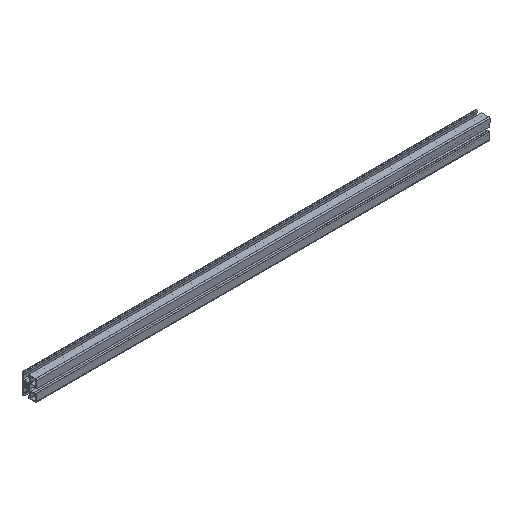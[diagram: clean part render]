
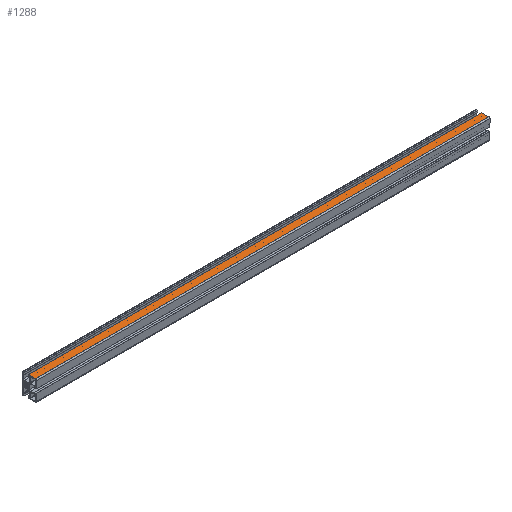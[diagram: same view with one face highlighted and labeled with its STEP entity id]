
A CAD part, isometric view. The second image highlights one B-rep face of the part: STEP entity #1288.
In plain terms, the highlighted planar face has unit normal (0, 0, 1).
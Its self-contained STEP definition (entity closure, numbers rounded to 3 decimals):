
#168 = VERTEX_POINT ( 'NONE', #339 ) ;
#189 = LINE ( 'NONE', #518, #2029 ) ;
#305 = LINE ( 'NONE', #2101, #1907 ) ;
#332 = VECTOR ( 'NONE', #3488, 1000. ) ;
#339 = CARTESIAN_POINT ( 'NONE',  ( 0., 1.902, 22.236 ) ) ;
#461 = FACE_OUTER_BOUND ( 'NONE', #2337, .T. ) ;
#506 = VERTEX_POINT ( 'NONE', #957 ) ;
#509 = VECTOR ( 'NONE', #1337, 1000. ) ;
#518 = CARTESIAN_POINT ( 'NONE',  ( 0., 1.902, 22.236 ) ) ;
#524 = ORIENTED_EDGE ( 'NONE', *, *, #2116, .F. ) ;
#957 = CARTESIAN_POINT ( 'NONE',  ( 0., -13.698, 22.236 ) ) ;
#1288 = ADVANCED_FACE ( 'NONE', ( #461 ), #2467, .F. ) ;
#1337 = DIRECTION ( 'NONE',  ( 0., -1., 0. ) ) ;
#1452 = LINE ( 'NONE', #1730, #332 ) ;
#1543 = VERTEX_POINT ( 'NONE', #3457 ) ;
#1645 = CARTESIAN_POINT ( 'NONE',  ( 1000., 1.902, 22.236 ) ) ;
#1730 = CARTESIAN_POINT ( 'NONE',  ( 1000., 1.902, 22.236 ) ) ;
#1759 = ORIENTED_EDGE ( 'NONE', *, *, #3213, .F. ) ;
#1876 = EDGE_CURVE ( 'NONE', #168, #506, #189, .T. ) ;
#1907 = VECTOR ( 'NONE', #3549, 1000. ) ;
#2029 = VECTOR ( 'NONE', #2824, 1000. ) ;
#2101 = CARTESIAN_POINT ( 'NONE',  ( 1000., -13.698, 22.236 ) ) ;
#2116 = EDGE_CURVE ( 'NONE', #1543, #2512, #3317, .T. ) ;
#2337 = EDGE_LOOP ( 'NONE', ( #3466, #1759, #524, #2375 ) ) ;
#2375 = ORIENTED_EDGE ( 'NONE', *, *, #3771, .T. ) ;
#2467 = PLANE ( 'NONE',  #2698 ) ;
#2481 = CARTESIAN_POINT ( 'NONE',  ( 1000., 1.902, 22.236 ) ) ;
#2512 = VERTEX_POINT ( 'NONE', #3023 ) ;
#2698 = AXIS2_PLACEMENT_3D ( 'NONE', #2481, #3306, #3019 ) ;
#2824 = DIRECTION ( 'NONE',  ( 0., -1., 0. ) ) ;
#3019 = DIRECTION ( 'NONE',  ( 0., 1., 0. ) ) ;
#3023 = CARTESIAN_POINT ( 'NONE',  ( 1000., -13.698, 22.236 ) ) ;
#3213 = EDGE_CURVE ( 'NONE', #2512, #506, #305, .T. ) ;
#3306 = DIRECTION ( 'NONE',  ( 0., 0., -1. ) ) ;
#3317 = LINE ( 'NONE', #1645, #509 ) ;
#3457 = CARTESIAN_POINT ( 'NONE',  ( 1000., 1.902, 22.236 ) ) ;
#3466 = ORIENTED_EDGE ( 'NONE', *, *, #1876, .T. ) ;
#3488 = DIRECTION ( 'NONE',  ( -1., 0., 0. ) ) ;
#3549 = DIRECTION ( 'NONE',  ( -1., 0., 0. ) ) ;
#3771 = EDGE_CURVE ( 'NONE', #1543, #168, #1452, .T. ) ;
